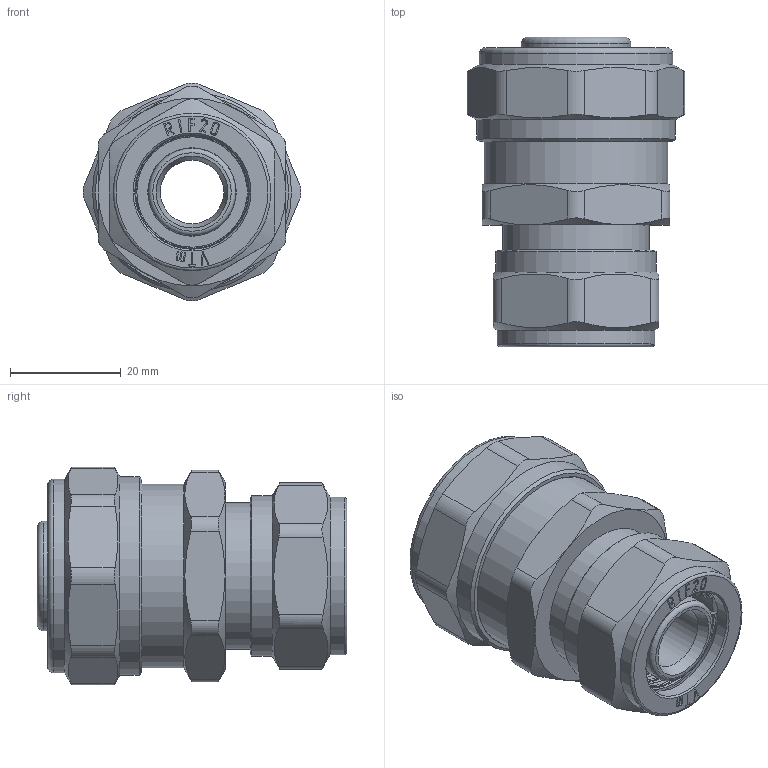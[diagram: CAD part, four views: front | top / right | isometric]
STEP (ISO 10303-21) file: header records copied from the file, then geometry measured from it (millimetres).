
FILE_DESCRIPTION(('STEP AP203'), '1');
FILE_NAME('VTm.303.N.002620', '', ('UNSPECIFIED'), ('UNSPECIFIED'), 'C3D Converter', 'C3D Toolkit', '');
FILE_SCHEMA(('CONFIG_CONTROL_DESIGN'));
Length unit declared in the file: millimetre
Products named in the file (1): ВР.302634.072.000 СБ
Bounding box: 39.39 x 56.03 x 39.39 mm (x, y, z)
Volume: 31178.1 mm3; surface area: 19942.2 mm2
Topology: 1 solids, 1 shells, 593 faces, 1610 edges, 1060 vertices
Faces by surface type: extrusion 240, plane 198, cylinder 70, torus 56, cone 29
Full cylindrical faces by diameter (mm): 11.5 x1, 15 x1, 15.8 x4, 15.9 x1, 17.4 x4, 19.8 x5, 20 x1, 20.1 x1, 20.2 x1, 20.7 x1, 24.118 x1, 26.2 x1, 26.441 x1, 26.7 x1, 28.5 x1, 29 x1, 30.292 x1, 33.249 x1, 35 x1, 36 x1
Entity records: 22394 total; most frequent: CARTESIAN_POINT 8956, ORIENTED_EDGE 3058, DIRECTION 1977, EDGE_CURVE 1529, VERTEX_POINT 1058, VECTOR 893, B_SPLINE_CURVE_WITH_KNOTS 886, EDGE_LOOP 713
